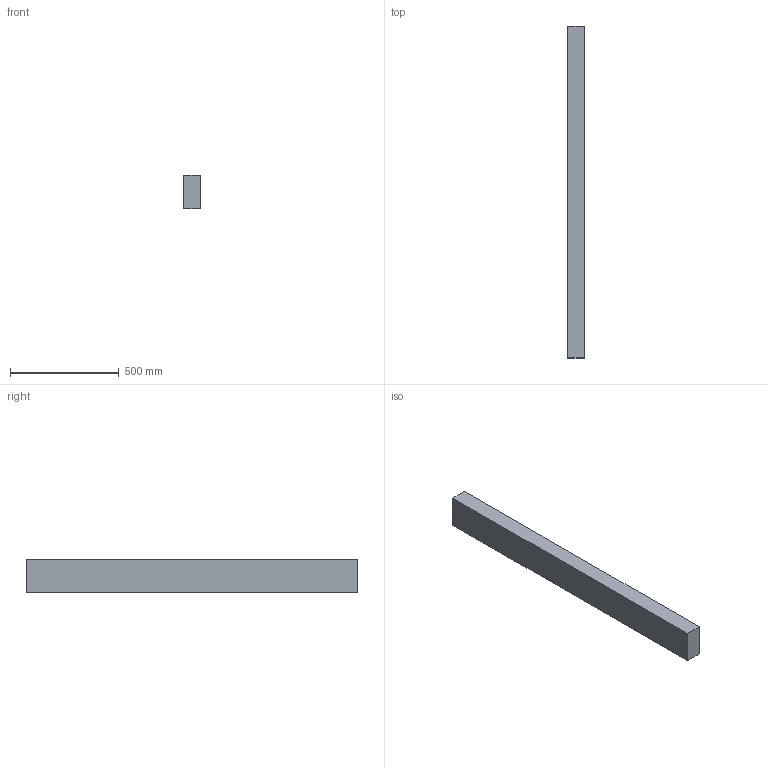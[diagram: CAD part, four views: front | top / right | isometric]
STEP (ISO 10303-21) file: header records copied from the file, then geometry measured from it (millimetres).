
FILE_DESCRIPTION(/* description */ (''),/* implementation_level */ '2;1');
FILE_NAME(/* name */ '3x6x60',/* time_stamp */ '2024-09-20T11:43:37-05:00',/* author */ (''),/* organization */ (''),/* preprocessor_version */ 'ST-DEVELOPER v19.2',/* originating_system */ 'Rhino 8.5',/* authorisation */ '');
FILE_SCHEMA (('CONFIG_CONTROL_DESIGN'));
Length unit declared in the file: inch
Products named in the file (1): Document
Bounding box: 76.2 x 1524 x 152.4 mm (x, y, z)
Volume: 17698029.1 mm3; surface area: 719998.6 mm2
Topology: 1 solids, 1 shells, 6 faces, 12 edges, 8 vertices
Faces by surface type: plane 6
Entity records: 226 total; most frequent: CARTESIAN_POINT 40, ORIENTED_EDGE 24, EDGE_CURVE 12, B_SPLINE_CURVE_WITH_KNOTS 12, DIRECTION 10, VERTEX_POINT 8, AXIS2_PLACEMENT_3D 8, ORGANIZATION 7
